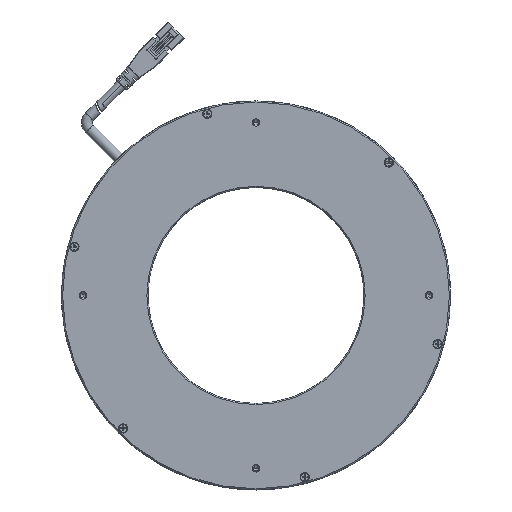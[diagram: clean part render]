
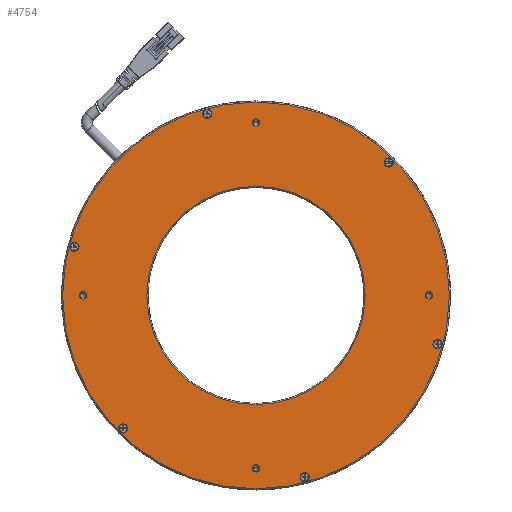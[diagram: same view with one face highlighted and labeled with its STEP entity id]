
A CAD part, top view. The second image highlights one B-rep face of the part: STEP entity #4754.
In plain terms, the highlighted planar face has unit normal (0, 0, 1).
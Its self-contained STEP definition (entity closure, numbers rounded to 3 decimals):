
#313=CARTESIAN_POINT('',(61.518,61.518,2.));
#314=DIRECTION('',(0.,0.,-1.));
#315=DIRECTION('',(-1.,0.,0.));
#316=AXIS2_PLACEMENT_3D('',#313,#314,#315);
#318=CARTESIAN_POINT('',(61.518,61.518,2.));
#319=DIRECTION('',(0.,0.,-1.));
#320=DIRECTION('',(1.,0.,0.));
#321=AXIS2_PLACEMENT_3D('',#318,#319,#320);
#323=CARTESIAN_POINT('',(0.,0.,2.));
#324=DIRECTION('',(0.,0.,-1.));
#325=DIRECTION('',(0.,1.,0.));
#326=AXIS2_PLACEMENT_3D('',#323,#324,#325);
#328=CARTESIAN_POINT('',(0.,0.,2.));
#329=DIRECTION('',(0.,0.,-1.));
#330=DIRECTION('',(0.,-1.,0.));
#331=AXIS2_PLACEMENT_3D('',#328,#329,#330);
#333=CARTESIAN_POINT('',(-80.,0.,2.));
#334=DIRECTION('',(0.,0.,-1.));
#335=DIRECTION('',(0.,-1.,0.));
#336=AXIS2_PLACEMENT_3D('',#333,#334,#335);
#338=CARTESIAN_POINT('',(-80.,0.,2.));
#339=DIRECTION('',(0.,0.,-1.));
#340=DIRECTION('',(0.,1.,0.));
#341=AXIS2_PLACEMENT_3D('',#338,#339,#340);
#343=CARTESIAN_POINT('',(0.,-80.,2.));
#344=DIRECTION('',(0.,0.,-1.));
#345=DIRECTION('',(1.,0.,0.));
#346=AXIS2_PLACEMENT_3D('',#343,#344,#345);
#348=CARTESIAN_POINT('',(0.,-80.,2.));
#349=DIRECTION('',(0.,0.,-1.));
#350=DIRECTION('',(-1.,0.,0.));
#351=AXIS2_PLACEMENT_3D('',#348,#349,#350);
#353=CARTESIAN_POINT('',(80.,0.,2.));
#354=DIRECTION('',(0.,0.,-1.));
#355=DIRECTION('',(0.,1.,0.));
#356=AXIS2_PLACEMENT_3D('',#353,#354,#355);
#358=CARTESIAN_POINT('',(80.,0.,2.));
#359=DIRECTION('',(0.,0.,-1.));
#360=DIRECTION('',(0.,-1.,0.));
#361=AXIS2_PLACEMENT_3D('',#358,#359,#360);
#363=CARTESIAN_POINT('',(0.,80.,2.));
#364=DIRECTION('',(0.,0.,-1.));
#365=DIRECTION('',(-1.,0.,0.));
#366=AXIS2_PLACEMENT_3D('',#363,#364,#365);
#368=CARTESIAN_POINT('',(0.,80.,2.));
#369=DIRECTION('',(0.,0.,-1.));
#370=DIRECTION('',(1.,0.,0.));
#371=AXIS2_PLACEMENT_3D('',#368,#369,#370);
#373=CARTESIAN_POINT('',(-22.517,84.036,2.));
#374=DIRECTION('',(0.,0.,-1.));
#375=DIRECTION('',(-0.5,-0.866,0.));
#376=AXIS2_PLACEMENT_3D('',#373,#374,#375);
#378=CARTESIAN_POINT('',(-22.517,84.036,2.));
#379=DIRECTION('',(0.,0.,-1.));
#380=DIRECTION('',(0.5,0.866,0.));
#381=AXIS2_PLACEMENT_3D('',#378,#379,#380);
#383=CARTESIAN_POINT('',(-84.036,22.517,2.));
#384=DIRECTION('',(0.,0.,-1.));
#385=DIRECTION('',(0.5,-0.866,0.));
#386=AXIS2_PLACEMENT_3D('',#383,#384,#385);
#388=CARTESIAN_POINT('',(-84.036,22.517,2.));
#389=DIRECTION('',(0.,0.,-1.));
#390=DIRECTION('',(-0.5,0.866,0.));
#391=AXIS2_PLACEMENT_3D('',#388,#389,#390);
#393=CARTESIAN_POINT('',(-61.518,-61.518,2.));
#394=DIRECTION('',(0.,0.,-1.));
#395=DIRECTION('',(1.,0.,0.));
#396=AXIS2_PLACEMENT_3D('',#393,#394,#395);
#398=CARTESIAN_POINT('',(-61.518,-61.518,2.));
#399=DIRECTION('',(0.,0.,-1.));
#400=DIRECTION('',(-1.,0.,0.));
#401=AXIS2_PLACEMENT_3D('',#398,#399,#400);
#403=CARTESIAN_POINT('',(22.517,-84.036,2.));
#404=DIRECTION('',(0.,0.,-1.));
#405=DIRECTION('',(0.5,0.866,0.));
#406=AXIS2_PLACEMENT_3D('',#403,#404,#405);
#408=CARTESIAN_POINT('',(22.517,-84.036,2.));
#409=DIRECTION('',(0.,0.,-1.));
#410=DIRECTION('',(-0.5,-0.866,0.));
#411=AXIS2_PLACEMENT_3D('',#408,#409,#410);
#413=CARTESIAN_POINT('',(84.036,-22.517,2.));
#414=DIRECTION('',(0.,0.,-1.));
#415=DIRECTION('',(-0.5,0.866,0.));
#416=AXIS2_PLACEMENT_3D('',#413,#414,#415);
#418=CARTESIAN_POINT('',(84.036,-22.517,2.));
#419=DIRECTION('',(0.,0.,-1.));
#420=DIRECTION('',(0.5,-0.866,0.));
#421=AXIS2_PLACEMENT_3D('',#418,#419,#420);
#423=CARTESIAN_POINT('',(0.,0.,2.));
#424=DIRECTION('',(0.,0.,1.));
#425=DIRECTION('',(0.,-1.,0.));
#426=AXIS2_PLACEMENT_3D('',#423,#424,#425);
#428=CARTESIAN_POINT('',(0.,0.,2.));
#429=DIRECTION('',(0.,0.,1.));
#430=DIRECTION('',(0.,1.,0.));
#431=AXIS2_PLACEMENT_3D('',#428,#429,#430);
#3369=CARTESIAN_POINT('',(0.,89.5,2.));
#3370=CARTESIAN_POINT('',(0.,-89.5,2.));
#3371=VERTEX_POINT('',#3369);
#3372=VERTEX_POINT('',#3370);
#3373=CARTESIAN_POINT('',(85.111,-24.379,2.));
#3374=CARTESIAN_POINT('',(82.961,-20.655,2.));
#3375=VERTEX_POINT('',#3373);
#3376=VERTEX_POINT('',#3374);
#3377=CARTESIAN_POINT('',(21.442,-85.898,2.));
#3378=CARTESIAN_POINT('',(23.592,-82.174,2.));
#3379=VERTEX_POINT('',#3377);
#3380=VERTEX_POINT('',#3378);
#3381=CARTESIAN_POINT('',(-63.668,-61.518,2.));
#3382=CARTESIAN_POINT('',(-59.368,-61.518,2.));
#3383=VERTEX_POINT('',#3381);
#3384=VERTEX_POINT('',#3382);
#3385=CARTESIAN_POINT('',(-85.111,24.379,2.));
#3386=CARTESIAN_POINT('',(-82.961,20.655,2.));
#3387=VERTEX_POINT('',#3385);
#3388=VERTEX_POINT('',#3386);
#3389=CARTESIAN_POINT('',(-21.442,85.898,2.));
#3390=CARTESIAN_POINT('',(-23.592,82.174,2.));
#3391=VERTEX_POINT('',#3389);
#3392=VERTEX_POINT('',#3390);
#3393=CARTESIAN_POINT('',(1.7,80.,2.));
#3394=CARTESIAN_POINT('',(-1.7,80.,2.));
#3395=VERTEX_POINT('',#3393);
#3396=VERTEX_POINT('',#3394);
#3397=CARTESIAN_POINT('',(80.,-1.7,2.));
#3398=CARTESIAN_POINT('',(80.,1.7,2.));
#3399=VERTEX_POINT('',#3397);
#3400=VERTEX_POINT('',#3398);
#3401=CARTESIAN_POINT('',(-1.7,-80.,2.));
#3402=CARTESIAN_POINT('',(1.7,-80.,2.));
#3403=VERTEX_POINT('',#3401);
#3404=VERTEX_POINT('',#3402);
#3405=CARTESIAN_POINT('',(-80.,1.7,2.));
#3406=CARTESIAN_POINT('',(-80.,-1.7,2.));
#3407=VERTEX_POINT('',#3405);
#3408=VERTEX_POINT('',#3406);
#3409=CARTESIAN_POINT('',(0.,-50.5,2.));
#3410=CARTESIAN_POINT('',(0.,50.5,2.));
#3411=VERTEX_POINT('',#3409);
#3412=VERTEX_POINT('',#3410);
#3413=CARTESIAN_POINT('',(63.668,61.518,2.));
#3414=CARTESIAN_POINT('',(59.368,61.518,2.));
#3415=VERTEX_POINT('',#3413);
#3416=VERTEX_POINT('',#3414);
#4679=CARTESIAN_POINT('',(0.,0.,2.));
#4680=DIRECTION('',(0.,0.,-1.));
#4681=DIRECTION('',(0.,-1.,0.));
#4682=AXIS2_PLACEMENT_3D('',#4679,#4680,#4681);
#4683=PLANE('',#4682);
#4685=ORIENTED_EDGE('',*,*,#4684,.F.);
#4687=ORIENTED_EDGE('',*,*,#4686,.F.);
#4688=EDGE_LOOP('',(#4685,#4687));
#4689=FACE_OUTER_BOUND('',#4688,.F.);
#4691=ORIENTED_EDGE('',*,*,#4690,.F.);
#4693=ORIENTED_EDGE('',*,*,#4692,.F.);
#4694=EDGE_LOOP('',(#4691,#4693));
#4695=FACE_BOUND('',#4694,.F.);
#4697=ORIENTED_EDGE('',*,*,#4696,.F.);
#4699=ORIENTED_EDGE('',*,*,#4698,.F.);
#4700=EDGE_LOOP('',(#4697,#4699));
#4701=FACE_BOUND('',#4700,.F.);
#4703=ORIENTED_EDGE('',*,*,#4702,.F.);
#4705=ORIENTED_EDGE('',*,*,#4704,.F.);
#4706=EDGE_LOOP('',(#4703,#4705));
#4707=FACE_BOUND('',#4706,.F.);
#4709=ORIENTED_EDGE('',*,*,#4708,.F.);
#4711=ORIENTED_EDGE('',*,*,#4710,.F.);
#4712=EDGE_LOOP('',(#4709,#4711));
#4713=FACE_BOUND('',#4712,.F.);
#4715=ORIENTED_EDGE('',*,*,#4714,.F.);
#4717=ORIENTED_EDGE('',*,*,#4716,.F.);
#4718=EDGE_LOOP('',(#4715,#4717));
#4719=FACE_BOUND('',#4718,.F.);
#4721=ORIENTED_EDGE('',*,*,#4720,.F.);
#4723=ORIENTED_EDGE('',*,*,#4722,.F.);
#4724=EDGE_LOOP('',(#4721,#4723));
#4725=FACE_BOUND('',#4724,.F.);
#4727=ORIENTED_EDGE('',*,*,#4726,.F.);
#4729=ORIENTED_EDGE('',*,*,#4728,.F.);
#4730=EDGE_LOOP('',(#4727,#4729));
#4731=FACE_BOUND('',#4730,.F.);
#4732=ORIENTED_EDGE('',*,*,#4646,.F.);
#4733=ORIENTED_EDGE('',*,*,#4661,.F.);
#4734=EDGE_LOOP('',(#4732,#4733));
#4735=FACE_BOUND('',#4734,.F.);
#4737=ORIENTED_EDGE('',*,*,#4736,.F.);
#4739=ORIENTED_EDGE('',*,*,#4738,.F.);
#4740=EDGE_LOOP('',(#4737,#4739));
#4741=FACE_BOUND('',#4740,.F.);
#4743=ORIENTED_EDGE('',*,*,#4742,.F.);
#4745=ORIENTED_EDGE('',*,*,#4744,.F.);
#4746=EDGE_LOOP('',(#4743,#4745));
#4747=FACE_BOUND('',#4746,.F.);
#4749=ORIENTED_EDGE('',*,*,#4748,.F.);
#4751=ORIENTED_EDGE('',*,*,#4750,.F.);
#4752=EDGE_LOOP('',(#4749,#4751));
#4753=FACE_BOUND('',#4752,.F.);
#4754=ADVANCED_FACE('',(#4689,#4695,#4701,#4707,#4713,#4719,#4725,#4731,#4735,
#4741,#4747,#4753),#4683,.F.);
#317=CIRCLE('',#316,2.15);
#322=CIRCLE('',#321,2.15);
#327=CIRCLE('',#326,50.5);
#332=CIRCLE('',#331,50.5);
#337=CIRCLE('',#336,1.7);
#342=CIRCLE('',#341,1.7);
#347=CIRCLE('',#346,1.7);
#352=CIRCLE('',#351,1.7);
#357=CIRCLE('',#356,1.7);
#362=CIRCLE('',#361,1.7);
#367=CIRCLE('',#366,1.7);
#372=CIRCLE('',#371,1.7);
#377=CIRCLE('',#376,2.15);
#382=CIRCLE('',#381,2.15);
#387=CIRCLE('',#386,2.15);
#392=CIRCLE('',#391,2.15);
#397=CIRCLE('',#396,2.15);
#402=CIRCLE('',#401,2.15);
#407=CIRCLE('',#406,2.15);
#412=CIRCLE('',#411,2.15);
#417=CIRCLE('',#416,2.15);
#422=CIRCLE('',#421,2.15);
#427=CIRCLE('',#426,89.5);
#432=CIRCLE('',#431,89.5);
#4646=EDGE_CURVE('',#3384,#3383,#397,.T.);
#4661=EDGE_CURVE('',#3383,#3384,#402,.T.);
#4684=EDGE_CURVE('',#3372,#3371,#427,.T.);
#4686=EDGE_CURVE('',#3371,#3372,#432,.T.);
#4690=EDGE_CURVE('',#3412,#3411,#327,.T.);
#4692=EDGE_CURVE('',#3411,#3412,#332,.T.);
#4696=EDGE_CURVE('',#3408,#3407,#337,.T.);
#4698=EDGE_CURVE('',#3407,#3408,#342,.T.);
#4702=EDGE_CURVE('',#3404,#3403,#347,.T.);
#4704=EDGE_CURVE('',#3403,#3404,#352,.T.);
#4708=EDGE_CURVE('',#3400,#3399,#357,.T.);
#4710=EDGE_CURVE('',#3399,#3400,#362,.T.);
#4714=EDGE_CURVE('',#3396,#3395,#367,.T.);
#4716=EDGE_CURVE('',#3395,#3396,#372,.T.);
#4720=EDGE_CURVE('',#3392,#3391,#377,.T.);
#4722=EDGE_CURVE('',#3391,#3392,#382,.T.);
#4726=EDGE_CURVE('',#3388,#3387,#387,.T.);
#4728=EDGE_CURVE('',#3387,#3388,#392,.T.);
#4736=EDGE_CURVE('',#3380,#3379,#407,.T.);
#4738=EDGE_CURVE('',#3379,#3380,#412,.T.);
#4742=EDGE_CURVE('',#3376,#3375,#417,.T.);
#4744=EDGE_CURVE('',#3375,#3376,#422,.T.);
#4748=EDGE_CURVE('',#3416,#3415,#317,.T.);
#4750=EDGE_CURVE('',#3415,#3416,#322,.T.);
